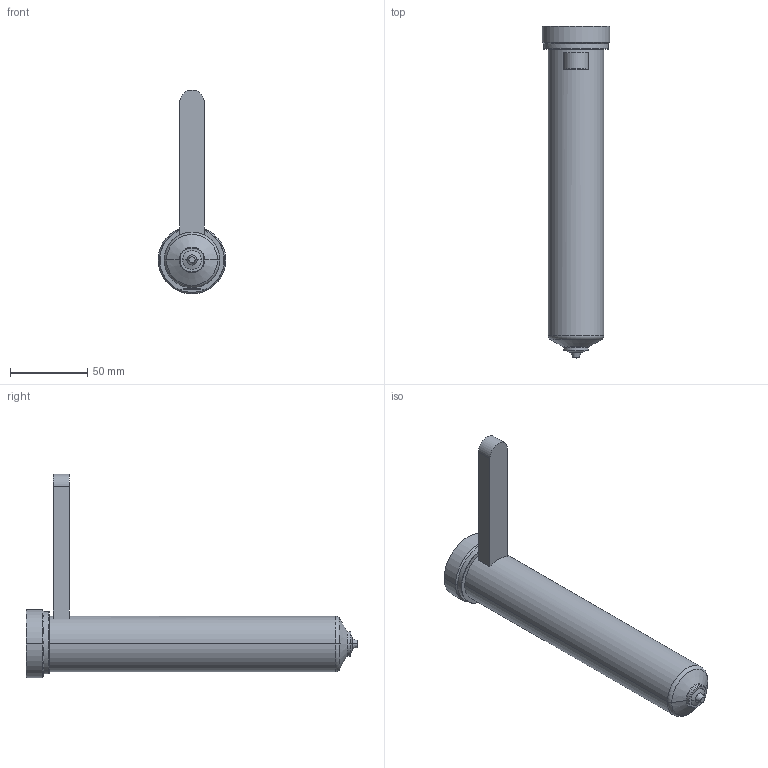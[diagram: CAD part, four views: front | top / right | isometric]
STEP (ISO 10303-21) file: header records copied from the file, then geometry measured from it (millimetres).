
FILE_DESCRIPTION((''),'2;1');
FILE_NAME('EO12_VG-BL_WR_200_COT','2024-02-19T13:17:33',('sundharh'),(''),'CREO PARAMETRIC BY PTC INC, 2023154','CREO PARAMETRIC BY PTC INC, 2023154','');
FILE_SCHEMA(('CONFIG_CONTROL_DESIGN'));
Length unit declared in the file: millimetre
Products named in the file (1): EO12_VG-BL_WR_200_COT
Bounding box: 44 x 215 x 132 mm (x, y, z)
Volume: 231848.1 mm3; surface area: 31223.2 mm2
Topology: 1 solids, 1 shells, 38 faces, 81 edges, 48 vertices
Faces by surface type: cylinder 11, plane 10, torus 9, cone 6, sphere 2
Entity records: 1135 total; most frequent: CARTESIAN_POINT 247, DIRECTION 199, ORIENTED_EDGE 162, AXIS2_PLACEMENT_3D 86, EDGE_CURVE 81, VERTEX_POINT 48, CIRCLE 48, EDGE_LOOP 41
